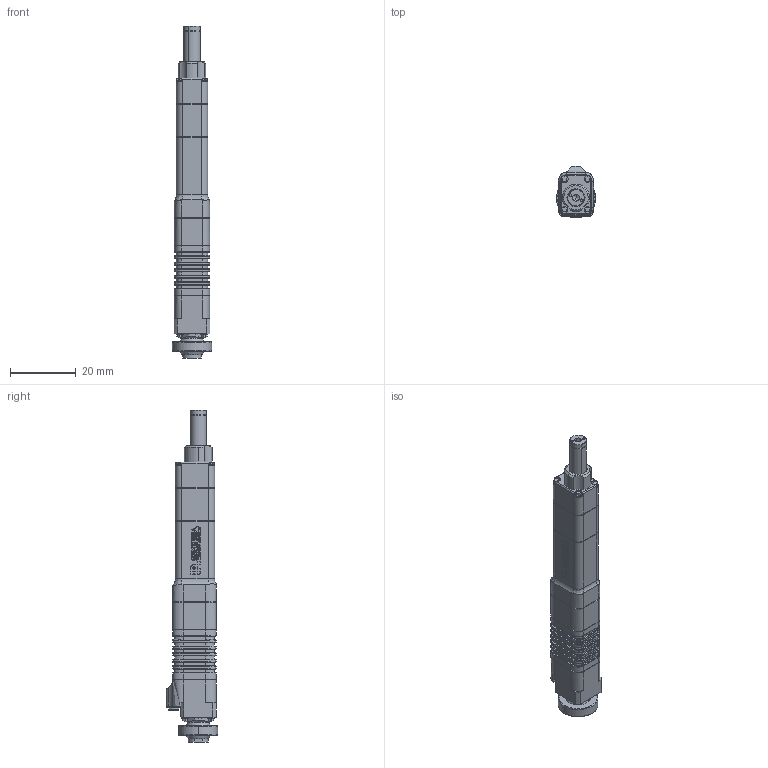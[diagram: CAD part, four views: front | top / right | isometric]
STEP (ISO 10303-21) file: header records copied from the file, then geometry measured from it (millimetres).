
FILE_DESCRIPTION (( 'STEP AP214' ), '1' );
FILE_NAME ('LAF30-0x4D-俋楷.STEP', '2022-12-06T11:36:11', ( '' ), ( '' ), '', '', '' );
FILE_SCHEMA (( 'AUTOMOTIVE_DESIGN' ));
Length unit declared in the file: millimetre
Products named in the file (3): AS820130-015芢裝-俋楷_1; 驱动器L30-0X4D外发_1; LAF30-0x4D-俋楷
Assembly tree (2 placements, depth 2):
  LAF30-0x4D-俋楷
    驱动器L30-0X4D外发_1
    AS820130-015芢裝-俋楷_1
Bounding box: 12 x 15.78 x 101.03 mm (x, y, z)
Volume: 10162.6 mm3; surface area: 5787.9 mm2
Topology: 2 solids, 5 shells, 1661 faces, 4315 edges, 2795 vertices
Faces by surface type: plane 873, bspline 570, cylinder 156, cone 62
Entity records: 73860 total; most frequent: CARTESIAN_POINT 29162, ORIENTED_EDGE 8626, DIRECTION 5779, EDGE_CURVE 4313, LINE 2801, VECTOR 2801, VERTEX_POINT 2795, EDGE_LOOP 1800
